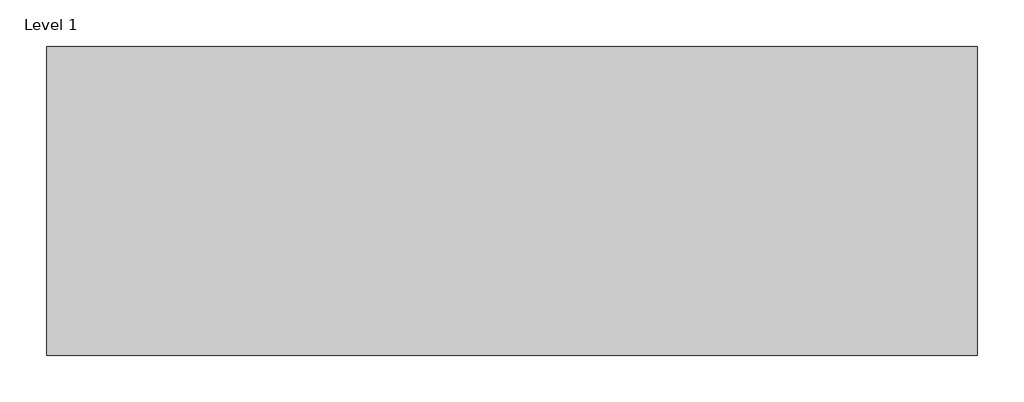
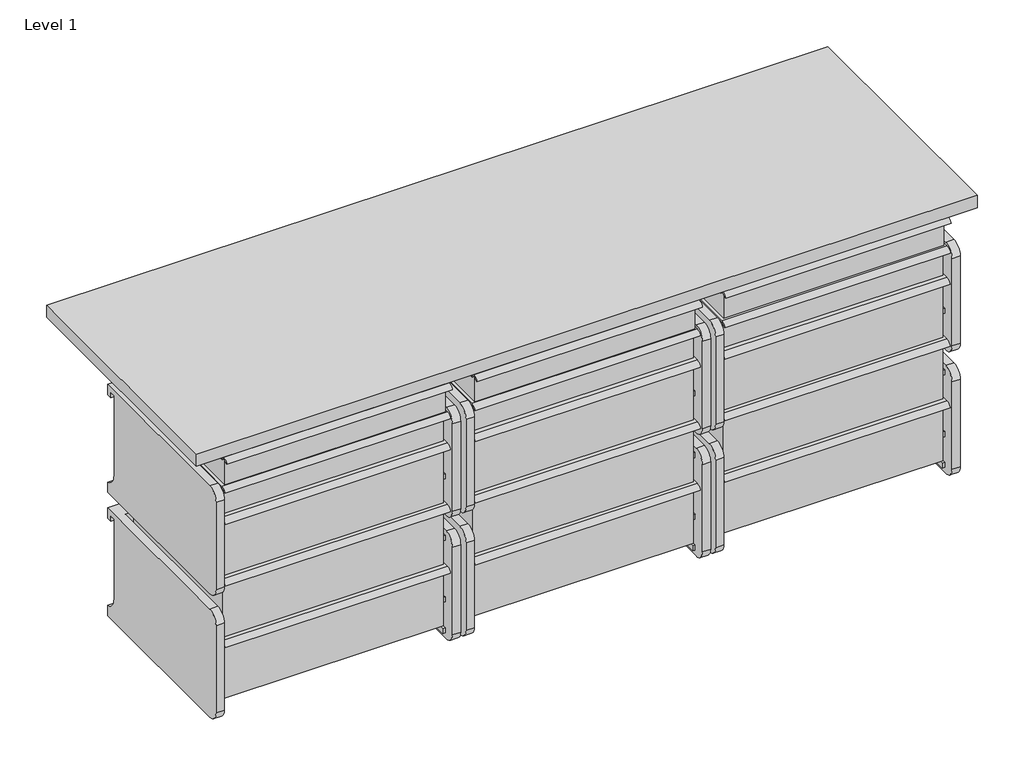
# One storey, incomplete: 22 furniture elements.
"""IFC4 building model written with IfcOpenShell, lengths in millimetres."""

from ifc_helpers import new_model, si_unit, origin, place, context, project, spatial, transform, mapped, element, save
from components import furniture_30ac351e, furniture_e68dc01e, a_3_21ecb1ea, a_3_71a075e6, b_6_d654d6fe, b_6_e7e615e0, b_6_b4610c64, lam_24d_72w_e893b95b

model = new_model("IFC4")

# Units and contexts
model_context = context("Model", 3, world=origin())
ifc_project = project(units=[si_unit("LENGTHUNIT", "METRE", prefix="MILLI")], contexts=[model_context])

# Site, building, storey
site = spatial("IfcSite", under=ifc_project)
building = spatial("IfcBuilding", under=site)
storey = spatial("IfcBuildingStorey", under=building, Name="Level 1", Elevation=0.0)

# Furniture
placement = place(None, origin())
furniture_shape = furniture_30ac351e(model_context)
element("IfcFurniture", 1, ObjectType="HermanMiller_CoStruc_CO205_CFrame : 10H x 17D x 22W", at=placement, inside=storey, context=model_context, shape_type="MappedRepresentation", body=[
    mapped(furniture_shape, transform((1410.8047751, -247.0345997, 0.0), x_axis=(1.0, 0.0, 0.0), y_axis=(0.0, 1.0, 0.0), z_axis=(0.0, 0.0, 1.0))),
])
element("IfcFurniture", 2, ObjectType="HermanMiller_CoStruc_CO205_CFrame : 10H x 17D x 22W", at=placement, inside=storey, context=model_context, shape_type="MappedRepresentation", body=[
    mapped(furniture_shape, transform((827.3997951, -247.0345997, 0.0), x_axis=(1.0, 0.0, 0.0), y_axis=(0.0, 1.0, 0.0), z_axis=(0.0, 0.0, 1.0))),
])
element("IfcFurniture", 3, ObjectType="HermanMiller_CoStruc_CO205_CFrame : 10H x 17D x 22W", at=placement, inside=storey, context=model_context, shape_type="MappedRepresentation", body=[
    mapped(furniture_shape, transform((243.1997951, -247.0345997, 0.0), x_axis=(1.0, 0.0, 0.0), y_axis=(0.0, 1.0, 0.0), z_axis=(0.0, 0.0, 1.0))),
])
furniture_2_shape = furniture_e68dc01e(model_context)
element("IfcFurniture", 4, ObjectType="HermanMiller_CoStruc_CO205_CFrame : 10H x 17D x 22W", at=placement, inside=storey, context=model_context, shape_type="MappedRepresentation", body=[
    mapped(furniture_2_shape, transform((827.3997951, -247.0345997, 0.0), x_axis=(1.0, 0.0, 0.0), y_axis=(0.0, 1.0, 0.0), z_axis=(0.0, 0.0, 1.0))),
])
element("IfcFurniture", 5, ObjectType="HermanMiller_CoStruc_CO205_CFrame : 10H x 17D x 22W", at=placement, inside=storey, context=model_context, shape_type="MappedRepresentation", body=[
    mapped(furniture_2_shape, transform((1410.8047751, -247.0345997, 0.0), x_axis=(1.0, 0.0, 0.0), y_axis=(0.0, 1.0, 0.0), z_axis=(0.0, 0.0, 1.0))),
])
element("IfcFurniture", 6, ObjectType="HermanMiller_CoStruc_CO205_CFrame : 10H x 17D x 22W", at=placement, inside=storey, context=model_context, shape_type="MappedRepresentation", body=[
    mapped(furniture_2_shape, transform((243.1997951, -247.0345997, 0.0), x_axis=(1.0, 0.0, 0.0), y_axis=(0.0, 1.0, 0.0), z_axis=(0.0, 0.0, 1.0))),
])
a_3_shape = a_3_21ecb1ea(model_context)
element("IfcFurniture", 7, ObjectType="HermanMiller_CoStruc_CO207_Drawer : A - 3", at=placement, inside=storey, context=model_context, shape_type="MappedRepresentation", body=[
    mapped(a_3_shape, transform((922.2701517, -406.4254, 0.0), x_axis=(1.0, 0.0, 0.0), y_axis=(0.0, 1.0, 0.0), z_axis=(0.0, 0.0, 1.0))),
])
element("IfcFurniture", 8, ObjectType="HermanMiller_CoStruc_CO207_Drawer : A - 3", at=placement, inside=storey, context=model_context, shape_type="MappedRepresentation", body=[
    mapped(a_3_shape, transform((1506.4701517, -406.4254, 0.0), x_axis=(1.0, 0.0, 0.0), y_axis=(0.0, 1.0, 0.0), z_axis=(0.0, 0.0, 1.0))),
])
element("IfcFurniture", 9, ObjectType="HermanMiller_CoStruc_CO207_Drawer : A - 3", at=placement, inside=storey, context=model_context, shape_type="MappedRepresentation", body=[
    mapped(a_3_shape, transform((338.0701517, -406.4254, 0.0), x_axis=(1.0, 0.0, 0.0), y_axis=(0.0, 1.0, 0.0), z_axis=(0.0, 0.0, 1.0))),
])
a_3_2_shape = a_3_71a075e6(model_context)
element("IfcFurniture", 10, ObjectType="HermanMiller_CoStruc_CO207_Drawer : A - 3", at=placement, inside=storey, context=model_context, shape_type="MappedRepresentation", body=[
    mapped(a_3_2_shape, transform((1505.6751317, -410.39288, 0.0), x_axis=(1.0, 0.0, 0.0), y_axis=(0.0, 1.0, 0.0), z_axis=(0.0, 0.0, 1.0))),
])
element("IfcFurniture", 11, ObjectType="HermanMiller_CoStruc_CO207_Drawer : A - 3", at=placement, inside=storey, context=model_context, shape_type="MappedRepresentation", body=[
    mapped(a_3_2_shape, transform((922.2701517, -414.3629, 0.0), x_axis=(1.0, 0.0, 0.0), y_axis=(0.0, 1.0, 0.0), z_axis=(0.0, 0.0, 1.0))),
])
element("IfcFurniture", 12, ObjectType="HermanMiller_CoStruc_CO207_Drawer : A - 3", at=placement, inside=storey, context=model_context, shape_type="MappedRepresentation", body=[
    mapped(a_3_2_shape, transform((338.0701517, -414.3629, 0.0), x_axis=(1.0, 0.0, 0.0), y_axis=(0.0, 1.0, 0.0), z_axis=(0.0, 0.0, 1.0))),
])
b_6_shape = b_6_d654d6fe(model_context)
element("IfcFurniture", 13, ObjectType="HermanMiller_CoStruc_CO207_Drawer : B - 6", at=placement, inside=storey, context=model_context, shape_type="MappedRepresentation", body=[
    mapped(b_6_shape, transform((1505.6751317, -406.4254, 0.0), x_axis=(1.0, 0.0, 0.0), y_axis=(0.0, 1.0, 0.0), z_axis=(0.0, 0.0, 1.0))),
])
element("IfcFurniture", 14, ObjectType="HermanMiller_CoStruc_CO207_Drawer : B - 6", at=placement, inside=storey, context=model_context, shape_type="MappedRepresentation", body=[
    mapped(b_6_shape, transform((922.2701517, -406.4254, 0.0), x_axis=(1.0, 0.0, 0.0), y_axis=(0.0, 1.0, 0.0), z_axis=(0.0, 0.0, 1.0))),
])
element("IfcFurniture", 15, ObjectType="HermanMiller_CoStruc_CO207_Drawer : B - 6", at=placement, inside=storey, context=model_context, shape_type="MappedRepresentation", body=[
    mapped(b_6_shape, transform((338.0701517, -406.4254, 0.0), x_axis=(1.0, 0.0, 0.0), y_axis=(0.0, 1.0, 0.0), z_axis=(0.0, 0.0, 1.0))),
])
b_6_2_shape = b_6_e7e615e0(model_context)
element("IfcFurniture", 16, ObjectType="HermanMiller_CoStruc_CO207_Drawer : B - 6", at=placement, inside=storey, context=model_context, shape_type="MappedRepresentation", body=[
    mapped(b_6_2_shape, transform((922.2701517, -406.4254, 0.0), x_axis=(1.0, 0.0, 0.0), y_axis=(0.0, 1.0, 0.0), z_axis=(0.0, 0.0, 1.0))),
])
element("IfcFurniture", 17, ObjectType="HermanMiller_CoStruc_CO207_Drawer : B - 6", at=placement, inside=storey, context=model_context, shape_type="MappedRepresentation", body=[
    mapped(b_6_2_shape, transform((1505.6751317, -406.4254, 0.0), x_axis=(1.0, 0.0, 0.0), y_axis=(0.0, 1.0, 0.0), z_axis=(0.0, 0.0, 1.0))),
])
element("IfcFurniture", 18, ObjectType="HermanMiller_CoStruc_CO207_Drawer : B - 6", at=placement, inside=storey, context=model_context, shape_type="MappedRepresentation", body=[
    mapped(b_6_2_shape, transform((338.0701517, -406.4254, 0.0), x_axis=(1.0, 0.0, 0.0), y_axis=(0.0, 1.0, 0.0), z_axis=(0.0, 0.0, 1.0))),
])
b_6_3_shape = b_6_b4610c64(model_context)
element("IfcFurniture", 19, ObjectType="HermanMiller_CoStruc_CO207_Drawer : B - 6", at=placement, inside=storey, context=model_context, shape_type="MappedRepresentation", body=[
    mapped(b_6_3_shape, transform((1505.6751317, -406.4254, 0.0), x_axis=(1.0, 0.0, 0.0), y_axis=(0.0, 1.0, 0.0), z_axis=(0.0, 0.0, 1.0))),
])
element("IfcFurniture", 20, ObjectType="HermanMiller_CoStruc_CO207_Drawer : B - 6", at=placement, inside=storey, context=model_context, shape_type="MappedRepresentation", body=[
    mapped(b_6_3_shape, transform((922.2701517, -406.4254, 0.0), x_axis=(1.0, 0.0, 0.0), y_axis=(0.0, 1.0, 0.0), z_axis=(0.0, 0.0, 1.0))),
])
element("IfcFurniture", 21, ObjectType="HermanMiller_CoStruc_CO207_Drawer : B - 6", at=placement, inside=storey, context=model_context, shape_type="MappedRepresentation", body=[
    mapped(b_6_3_shape, transform((338.0701517, -406.4254, 0.0), x_axis=(1.0, 0.0, 0.0), y_axis=(0.0, 1.0, 0.0), z_axis=(0.0, 0.0, 1.0))),
])
lam_24d_72w_shape = lam_24d_72w_e893b95b(model_context)
element("IfcFurniture", 22, ObjectType="HermanMiller_CoStruc_C4700_RectangularWorkTableSurface : Lam 24D 72W", at=placement, inside=storey, context=model_context, shape_type="MappedRepresentation", body=[
    mapped(lam_24d_72w_shape, transform((0.0, 0.0, 0.0), x_axis=(1.0, 0.0, 0.0), y_axis=(0.0, 1.0, 0.0), z_axis=(0.0, 0.0, 1.0))),
])

save(model, "model.ifc")
